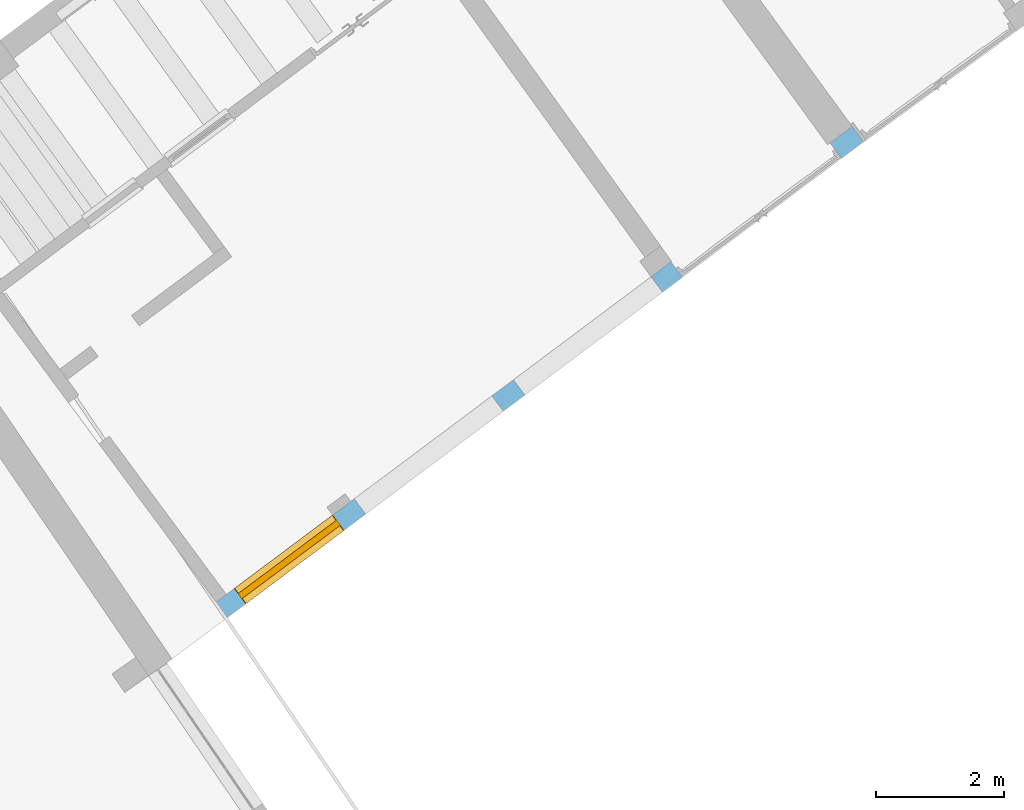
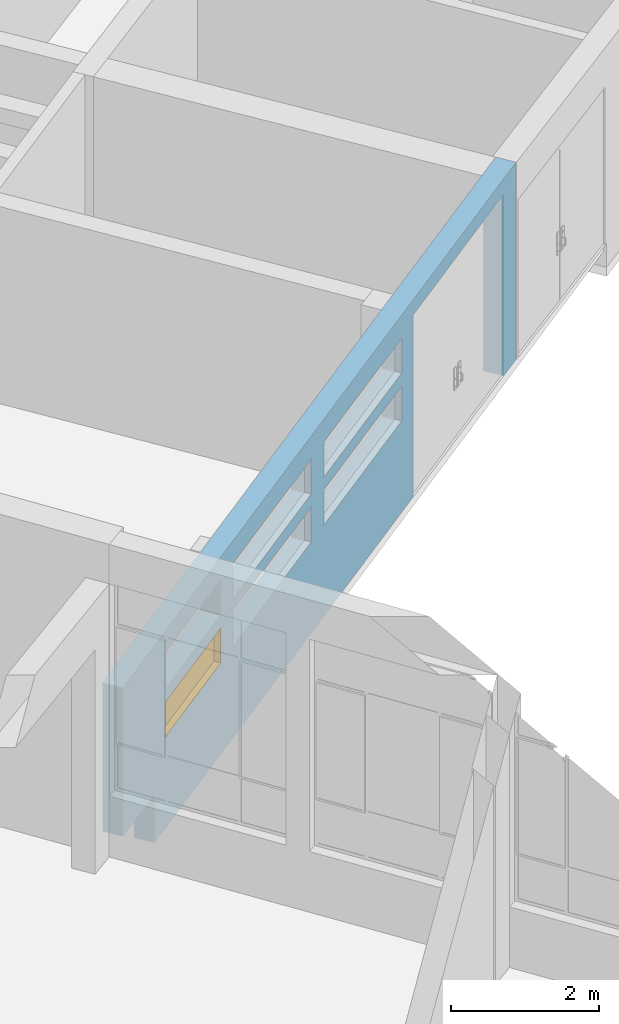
# One storey, part 136 of 157: 1 window, 7 openings, plus 1 element that does not belong to this part.
"""IFC2X3 building model written with IfcOpenShell, lengths in millimetres."""

from ifc_helpers import new_model, entity, si_unit, converted_unit, derived_unit, direction, frame, frame_2d, origin, origin_2d_with_axis, place, context, subcontext, project, spatial, polyline, rectangle, outline, extrude, faceted_brep, source, transform, mapped, material, material_list, layer, layer_set, type_object, type_shapes, element, fill, save


model = new_model("IFC2X3")

# Units and contexts
model_context = context("Model", 3, precision=0.01, world=origin(), true_north=direction((6.123031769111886e-17, 1.0)))
body_context = subcontext(model_context, "Body", "Model", "MODEL_VIEW")
ifc_project = project(units=[si_unit("LENGTHUNIT", "METRE", prefix="MILLI"), si_unit("AREAUNIT", "SQUARE_METRE"), si_unit("VOLUMEUNIT", "CUBIC_METRE"), converted_unit("PLANEANGLEUNIT", "DEGREE", entity("IfcRatioMeasure", 0.017453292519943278), si_unit("PLANEANGLEUNIT", "RADIAN"), dimensions=[0, 0, 0, 0, 0, 0, 0]), si_unit("MASSUNIT", "GRAM", prefix="KILO"), derived_unit("MASSDENSITYUNIT", [(si_unit("MASSUNIT", "GRAM", prefix="KILO"), 1), (si_unit("LENGTHUNIT", "METRE"), -3)]), derived_unit("MOMENTOFINERTIAUNIT", [(si_unit("LENGTHUNIT", "METRE"), 4)]), si_unit("TIMEUNIT", "SECOND"), si_unit("FREQUENCYUNIT", "HERTZ"), si_unit("THERMODYNAMICTEMPERATUREUNIT", "DEGREE_CELSIUS"), derived_unit("THERMALTRANSMITTANCEUNIT", [(si_unit("MASSUNIT", "GRAM", prefix="KILO"), 1), (si_unit("THERMODYNAMICTEMPERATUREUNIT", "KELVIN"), -1), (si_unit("TIMEUNIT", "SECOND"), -3)]), derived_unit("THERMALCONDUCTANCEUNIT", [(si_unit("MASSUNIT", "GRAM", prefix="KILO"), 1), (si_unit("LENGTHUNIT", "METRE"), 1), (si_unit("THERMODYNAMICTEMPERATUREUNIT", "KELVIN"), -1), (si_unit("TIMEUNIT", "SECOND"), -3)]), derived_unit("VOLUMETRICFLOWRATEUNIT", [(si_unit("LENGTHUNIT", "METRE"), 3), (si_unit("TIMEUNIT", "SECOND"), -1)]), derived_unit("MASSFLOWRATEUNIT", [(si_unit("MASSUNIT", "GRAM", prefix="KILO"), 1), (si_unit("TIMEUNIT", "SECOND"), -1)]), derived_unit("ROTATIONALFREQUENCYUNIT", [(si_unit("TIMEUNIT", "SECOND"), -1)]), si_unit("ELECTRICCURRENTUNIT", "AMPERE"), si_unit("ELECTRICVOLTAGEUNIT", "VOLT"), si_unit("POWERUNIT", "WATT"), converted_unit("FORCEUNIT", "KIP", entity("IfcRatioMeasure", 2.088543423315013e-05), si_unit("FORCEUNIT", "NEWTON"), dimensions=[1, 1, -2, 0, 0, 0, 0]), si_unit("ILLUMINANCEUNIT", "LUX"), si_unit("LUMINOUSFLUXUNIT", "LUMEN"), si_unit("LUMINOUSINTENSITYUNIT", "CANDELA"), derived_unit("USERDEFINED", [(si_unit("MASSUNIT", "GRAM", prefix="KILO"), -1), (si_unit("LENGTHUNIT", "METRE"), -2), (si_unit("TIMEUNIT", "SECOND"), 3), (si_unit("LUMINOUSFLUXUNIT", "LUMEN"), 1)]), derived_unit("USERDEFINED", [(si_unit("MASSUNIT", "GRAM", prefix="KILO"), 1), (si_unit("LENGTHUNIT", "METRE"), 3), (si_unit("TIMEUNIT", "SECOND"), -3), (si_unit("ELECTRICCURRENTUNIT", "AMPERE"), -2)]), derived_unit("USERDEFINED", [(si_unit("LENGTHUNIT", "METRE"), 2), (si_unit("TIMEUNIT", "SECOND"), -2)]), derived_unit("SOUNDPOWERUNIT", [(si_unit("MASSUNIT", "GRAM", prefix="KILO"), 1), (si_unit("LENGTHUNIT", "METRE"), 2), (si_unit("TIMEUNIT", "SECOND"), -3)]), derived_unit("SOUNDPRESSUREUNIT", [(si_unit("MASSUNIT", "GRAM", prefix="KILO"), 1), (si_unit("LENGTHUNIT", "METRE"), -1), (si_unit("TIMEUNIT", "SECOND"), -2)]), derived_unit("LINEARVELOCITYUNIT", [(si_unit("LENGTHUNIT", "METRE"), 1), (si_unit("TIMEUNIT", "SECOND"), -1)]), si_unit("PRESSUREUNIT", "PASCAL"), derived_unit("USERDEFINED", [(si_unit("LENGTHUNIT", "METRE"), -2), (si_unit("MASSUNIT", "GRAM", prefix="KILO"), 1), (si_unit("TIMEUNIT", "SECOND"), -2)]), derived_unit("LINEARFORCEUNIT", [(si_unit("MASSUNIT", "GRAM", prefix="KILO"), 1), (si_unit("LENGTHUNIT", "METRE"), 1), (si_unit("TIMEUNIT", "SECOND"), -2), (si_unit("LENGTHUNIT", "METRE"), -1)]), derived_unit("PLANARFORCEUNIT", [(si_unit("MASSUNIT", "GRAM", prefix="KILO"), 1), (si_unit("LENGTHUNIT", "METRE"), 1), (si_unit("TIMEUNIT", "SECOND"), -2), (si_unit("LENGTHUNIT", "METRE"), -2)]), derived_unit("SPECIFICHEATCAPACITYUNIT", [(si_unit("LENGTHUNIT", "METRE"), 2), (si_unit("TIMEUNIT", "SECOND"), -2), (si_unit("THERMODYNAMICTEMPERATUREUNIT", "KELVIN"), -1)]), derived_unit("VAPORPERMEABILITYUNIT", [(si_unit("TIMEUNIT", "SECOND"), 1), (si_unit("LENGTHUNIT", "METRE"), -1)]), derived_unit("DYNAMICVISCOSITYUNIT", [(si_unit("MASSUNIT", "GRAM", prefix="KILO"), 1), (si_unit("LENGTHUNIT", "METRE"), -1), (si_unit("TIMEUNIT", "SECOND"), -1)]), derived_unit("THERMALEXPANSIONCOEFFICIENTUNIT", [(si_unit("THERMODYNAMICTEMPERATUREUNIT", "KELVIN"), -1)])], contexts=[model_context])

# Site, building, storey
site_placement = place(None, frame((0.0, 0.0, 0.0), z_axis=(0.0, 0.0, 1.0), x_axis=(0.8191520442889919, 0.5735764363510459, 0.0)))
site = spatial("IfcSite", under=ifc_project, at=site_placement, Name="Default", CompositionType="ELEMENT")
building_placement = place(site_placement, origin())
building = spatial("IfcBuilding", under=site, at=building_placement, CompositionType="ELEMENT")
storey_placement = place(building_placement, origin())
storey = spatial("IfcBuildingStorey", under=building, at=storey_placement, Name="1.EG +0.00", CompositionType="ELEMENT", Elevation=-4.331468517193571e-12)

# Wall, openings, window
ifc_material_1 = material(Name="Analytical Wall Surface_CJC")
ifc_layer = layer(ifc_material_1, 300.0)
ifc_layer_set = layer_set([ifc_layer], Name="Basic Wall:Wand_Aussen_30")
wall_type = type_object("IfcWallType", Name="Basic Wall:Wand_Aussen_30", PredefinedType="STANDARD", material=ifc_layer_set)
wall_placement = place(storey_placement, frame((-204115.16931109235, 157974.41195440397, -750.0), z_axis=(0.0, 0.0, 1.0), x_axis=(0.9995120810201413, 0.031234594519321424, 0.0)))
wall = element("IfcWall", 1, at=wall_placement, inside=storey, type_object=wall_type, Name="Basic Wall:Wand_Aussen_30", ObjectType="Basic Wall:Wand_Aussen_30", context=body_context, shape_type="Brep", body=[
    faceted_brep([(13462.146148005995, -150.0, 3250.0), (0.0, -150.0, 3250.0), (0.0, -150.0, 800.0), (1079.6115661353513, -150.0, 800.0), (1079.6115661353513, -150.0, 0.0), (9937.425197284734, -150.0, 0.0), (9937.425197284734, -150.0, 3000.0), (13037.425197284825, -150.0, 3000.0), (13037.425197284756, -150.0, 0.0), (13462.146148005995, -150.0, 0.0), (6451.92844655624, -150.0, 1500.0), (3771.928446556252, -150.0, 1500.0), (3771.928446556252, -150.0, 2090.0), (6451.92844655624, -150.0, 2090.0), (9551.928446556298, -150.0, 1500.0), (6871.928446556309, -150.0, 1500.0), (6871.928446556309, -150.0, 2090.0), (9551.928446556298, -150.0, 2090.0), (3351.9284465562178, -150.0, 1500.0), (1431.928446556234, -150.0, 1500.0), (1431.928446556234, -150.0, 2090.0), (3351.9284465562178, -150.0, 2090.0), (3351.9284465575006, -150.0, 2880.0), (3351.9284465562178, -150.0, 2290.0), (1431.928446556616, -150.0, 2290.0), (1431.9284465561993, -150.0, 2880.0), (9551.928446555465, -150.0, 2880.0), (9551.928446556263, -150.0, 2290.0), (6871.928446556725, -150.0, 2290.0), (6871.928446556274, -150.0, 2880.0), (6451.928446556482, -150.0, 2880.0), (6451.928446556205, -150.0, 2290.0), (3771.9284465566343, -150.0, 2290.0), (3771.9284465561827, -150.0, 2880.0), (0.0, 150.0, 3250.0), (1081.098058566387, 150.0, 3250.0), (1281.100513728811, 150.0, 3250.0), (3351.9284465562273, 150.0, 3250.0), (3701.9284465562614, 150.0, 3250.0), (9551.928446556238, 150.0, 3250.0), (9951.967355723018, 150.0, 3250.0), (12990.91558234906, 150.0, 3250.0), (13465.953840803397, 150.0, 3250.0), (13465.953840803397, 150.0, 0.0), (13037.425197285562, 150.0, 0.0), (13037.42519728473, 150.0, 3000.0), (9937.425197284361, 150.0, 3000.0), (9937.425197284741, 150.0, 0.0), (1281.100513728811, 150.0, 0.0), (1081.098058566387, 150.0, 0.0), (1081.098058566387, 150.0, 800.0), (0.0, 150.0, 800.0), (6451.928446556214, 150.0, 1500.0), (6451.928446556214, 150.0, 2090.0), (3771.9284465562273, 150.0, 2090.0), (3771.9284465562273, 150.0, 1500.0), (9551.928446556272, 150.0, 1500.0), (9551.928446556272, 150.0, 2090.0), (6871.928446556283, 150.0, 2090.0), (6871.928446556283, 150.0, 1500.0), (3351.9284465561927, 150.0, 1500.0), (3351.9284465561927, 150.0, 2090.0), (1431.9284465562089, 150.0, 2090.0), (1431.9284465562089, 150.0, 1500.0), (9551.928446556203, 150.0, 2290.0), (9551.928446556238, 150.0, 2880.0), (6871.928446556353, 150.0, 2880.0), (6871.928446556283, 150.0, 2290.0), (6451.928446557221, 150.0, 2290.0), (6451.928446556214, 150.0, 2880.0), (3771.928446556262, 150.0, 2880.0), (3771.9284465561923, 150.0, 2290.0), (3351.9284465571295, 150.0, 2290.0), (3351.9284465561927, 150.0, 2880.0), (1431.9284465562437, 150.0, 2880.0), (1431.9284465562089, 150.0, 2290.0)], [[[0, 1, 2, 3, 4, 5, 6, 7, 8, 9], [10, 11, 12, 13], [14, 15, 16, 17], [18, 19, 20, 21], [22, 23, 24, 25], [26, 27, 28, 29], [30, 31, 32, 33]], [[34, 35, 36, 37, 38, 39, 40, 41, 42, 43, 44, 45, 46, 47, 48, 49, 50, 51], [52, 53, 54, 55], [56, 57, 58, 59], [60, 61, 62, 63], [64, 65, 66, 67], [68, 69, 70, 71], [72, 73, 74, 75]], [[0, 9, 43, 42]], [[4, 49, 48, 47, 5]], [[1, 0, 42, 41, 40, 39, 38, 37, 36, 35, 34]], [[2, 1, 34, 51]], [[3, 2, 51, 50]], [[4, 3, 50, 49]], [[46, 6, 5, 47]], [[6, 46, 45, 7]], [[7, 45, 44, 8]], [[53, 52, 10, 13]], [[54, 53, 13, 12]], [[55, 54, 12, 11]], [[52, 55, 11, 10]], [[57, 56, 14, 17]], [[58, 57, 17, 16]], [[59, 58, 16, 15]], [[56, 59, 15, 14]], [[61, 60, 18, 21]], [[62, 61, 21, 20]], [[63, 62, 20, 19]], [[60, 63, 19, 18]], [[72, 23, 22, 73]], [[73, 22, 25, 74]], [[74, 25, 24, 75]], [[23, 72, 75, 24]], [[64, 27, 26, 65]], [[65, 26, 29, 66]], [[28, 67, 66, 29]], [[27, 64, 67, 28]], [[68, 31, 30, 69]], [[69, 30, 33, 70]], [[32, 71, 70, 33]], [[31, 68, 71, 32]], [[43, 9, 8, 44]]]),
])
opening_1_placement = place(wall_placement, frame((13037.425197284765, 150.0, 0.0)))
element("IfcOpeningElement", 2, at=opening_1_placement, cuts=wall, Name="M_Door-Exterior-Double:300x290:1", ObjectType="Opening", context=body_context, shape_type="SweptSolid", body=[
    extrude(rectangle(XDim=3000.0, YDim=3099.999999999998, at=frame_2d((1500.0, 1549.999999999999), x_axis=(1.0, 0.0))), frame((0.0, 0.0, 0.0), z_axis=(0.0, -1.0, 0.0), x_axis=(0.0, 0.0, 1.0)), (0.0, 0.0, 1.0), 300.0),
])
opening_2_placement = place(wall_placement, frame((6451.928446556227, 150.0, 1500.0)))
element("IfcOpeningElement", 3, at=opening_2_placement, cuts=wall, Name="WINDOW_Glass_Block:WINDOW_Glass_Block_14x3:1", ObjectType="Opening", context=body_context, shape_type="SweptSolid", body=[
    extrude(rectangle(XDim=589.9999999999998, YDim=2679.999999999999, at=frame_2d((294.99999999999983, 1339.9999999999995), x_axis=(1.0, 0.0))), frame((0.0, 0.0, 0.0), z_axis=(0.0, -1.0, 0.0), x_axis=(0.0, 0.0, 1.0)), (0.0, 0.0, 1.0), 300.0),
])
opening_3_placement = place(wall_placement, frame((9551.928446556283, 150.0, 1500.0)))
element("IfcOpeningElement", 4, at=opening_3_placement, cuts=wall, Name="WINDOW_Glass_Block:WINDOW_Glass_Block_14x3:1", ObjectType="Opening", context=body_context, shape_type="SweptSolid", body=[
    extrude(rectangle(XDim=589.9999999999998, YDim=2679.999999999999, at=frame_2d((294.99999999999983, 1339.9999999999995), x_axis=(1.0, 0.0))), frame((0.0, 0.0, 0.0), z_axis=(0.0, -1.0, 0.0), x_axis=(0.0, 0.0, 1.0)), (0.0, 0.0, 1.0), 300.0),
])
opening_4_placement = place(wall_placement, frame((3351.92844655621, 150.0, 1500.0)))
opening_4 = element("IfcOpeningElement", 5, at=opening_4_placement, cuts=wall, Name="WINDOW_Glass_Block:WINDOW_Glass_Block_10x3:1", ObjectType="Opening", context=body_context, shape_type="SweptSolid", body=[
    extrude(rectangle(XDim=589.9999999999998, YDim=1920.0, at=frame_2d((294.99999999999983, 960.0), x_axis=(1.0, 0.0))), frame((0.0, 0.0, 0.0), z_axis=(0.0, -1.0, 0.0), x_axis=(0.0, 0.0, 1.0)), (0.0, 0.0, 1.0), 300.0),
])
opening_5_placement = place(wall_placement, frame((6451.928446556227, 150.0, 2290.0)))
element("IfcOpeningElement", 6, at=opening_5_placement, cuts=wall, Name="WINDOW_Glass_Block:WINDOW_Glass_Block_14x3:1", ObjectType="Opening", context=body_context, shape_type="SweptSolid", body=[
    extrude(rectangle(XDim=589.9999999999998, YDim=2679.999999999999, at=frame_2d((294.99999999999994, 1339.9999999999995), x_axis=(1.0, 0.0))), frame((0.0, 0.0, 0.0), z_axis=(0.0, -1.0, 0.0), x_axis=(0.0, 0.0, 1.0)), (0.0, 0.0, 1.0), 300.0),
])
opening_6_placement = place(wall_placement, frame((9551.928446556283, 150.0, 2290.0)))
element("IfcOpeningElement", 7, at=opening_6_placement, cuts=wall, Name="WINDOW_Glass_Block:WINDOW_Glass_Block_14x3:1", ObjectType="Opening", context=body_context, shape_type="SweptSolid", body=[
    extrude(rectangle(XDim=589.9999999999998, YDim=2679.999999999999, at=frame_2d((294.99999999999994, 1339.9999999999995), x_axis=(1.0, 0.0))), frame((0.0, 0.0, 0.0), z_axis=(0.0, -1.0, 0.0), x_axis=(0.0, 0.0, 1.0)), (0.0, 0.0, 1.0), 300.0),
])
opening_7_placement = place(wall_placement, frame((3351.92844655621, 150.0, 2290.0)))
element("IfcOpeningElement", 8, at=opening_7_placement, cuts=wall, Name="WINDOW_Glass_Block:WINDOW_Glass_Block_10x3:1", ObjectType="Opening", context=body_context, shape_type="SweptSolid", body=[
    extrude(rectangle(XDim=589.9999999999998, YDim=1920.0, at=frame_2d((294.99999999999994, 960.0), x_axis=(1.0, 0.0))), frame((0.0, 0.0, 0.0), z_axis=(0.0, -1.0, 0.0), x_axis=(0.0, 0.0, 1.0)), (0.0, 0.0, 1.0), 300.0),
])
ifc_material_2 = material(Name="Glass")
ifc_material_3 = material(Name="Wood")
ifc_material_list = material_list([ifc_material_2, ifc_material_3])
window_style = type_object("IfcWindowStyle", Name="WINDOW_Glass_Block:WINDOW_Glass_Block_10x3", ConstructionType="NOTDEFINED", OperationType="NOTDEFINED", ParameterTakesPrecedence=False, Sizeable=False, material=ifc_material_list)
shared_shape = source(origin(), body_context, "Body", "SweptSolid", [
    extrude(rectangle(XDim=190.0, YDim=100.0, at=frame_2d((-6.394884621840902e-14, 0.0), x_axis=(1.0, 0.0))), frame((1625.0, 150.0, 200.0), z_axis=(0.0, 0.0, 1.0), x_axis=(-1.0, 0.0, 0.0)), (0.0, 0.0, 1.0), 189.99999999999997),
    extrude(rectangle(XDim=189.99999999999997, YDim=100.0, at=origin_2d_with_axis()), frame((1435.0, 150.0, 200.0), z_axis=(0.0, 0.0, 1.0), x_axis=(-1.0, 0.0, 0.0)), (0.0, 0.0, 1.0), 189.99999999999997),
    extrude(rectangle(XDim=189.99999999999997, YDim=100.0, at=origin_2d_with_axis()), frame((1245.0, 150.0, 200.0), z_axis=(0.0, 0.0, 1.0), x_axis=(-1.0, 0.0, 0.0)), (0.0, 0.0, 1.0), 189.99999999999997),
    extrude(rectangle(XDim=190.00000000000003, YDim=100.0, at=origin_2d_with_axis()), frame((1055.0, 150.0, 200.0), z_axis=(0.0, 0.0, 1.0), x_axis=(-1.0, 0.0, 0.0)), (0.0, 0.0, 1.0), 189.99999999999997),
    extrude(rectangle(XDim=190.0, YDim=100.0, at=frame_2d((-2.1316282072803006e-14, 0.0), x_axis=(1.0, 0.0))), frame((865.0, 150.0, 200.0), z_axis=(0.0, 0.0, 1.0), x_axis=(-1.0, 0.0, 0.0)), (0.0, 0.0, 1.0), 189.99999999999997),
    extrude(rectangle(XDim=190.0, YDim=100.0, at=frame_2d((-2.1316282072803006e-14, 0.0), x_axis=(1.0, 0.0))), frame((675.0, 150.0, 200.0), z_axis=(0.0, 0.0, 1.0), x_axis=(-1.0, 0.0, 0.0)), (0.0, 0.0, 1.0), 189.99999999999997),
    extrude(rectangle(XDim=190.00000000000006, YDim=100.0, at=frame_2d((-3.552713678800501e-14, 0.0), x_axis=(1.0, 0.0))), frame((485.0, 150.0, 200.0), z_axis=(0.0, 0.0, 1.0), x_axis=(-1.0, 0.0, 0.0)), (0.0, 0.0, 1.0), 189.99999999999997),
    extrude(rectangle(XDim=190.0, YDim=100.0, at=frame_2d((6.394884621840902e-14, 0.0), x_axis=(1.0, 0.0))), frame((295.0, 150.0, 200.0), z_axis=(0.0, 0.0, 1.0), x_axis=(-1.0, 0.0, 0.0)), (0.0, 0.0, 1.0), 189.99999999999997),
    extrude(rectangle(XDim=190.0, YDim=100.0, at=frame_2d((-6.394884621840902e-14, 0.0), x_axis=(1.0, 0.0))), frame((1815.0, 150.0, 200.0), z_axis=(0.0, 0.0, 1.0), x_axis=(-1.0, 0.0, 0.0)), (0.0, 0.0, 1.0), 189.99999999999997),
    extrude(rectangle(XDim=190.0, YDim=100.0, at=frame_2d((-6.394884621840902e-14, 0.0), x_axis=(1.0, 0.0))), frame((105.0, 150.0, 200.0), z_axis=(0.0, 0.0, 1.0), x_axis=(-1.0, 0.0, 0.0)), (0.0, 0.0, 1.0), 189.99999999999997),
    extrude(rectangle(XDim=190.0, YDim=100.0, at=frame_2d((-6.394884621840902e-14, 0.0), x_axis=(1.0, 0.0))), frame((1625.0, 150.0, 390.0), z_axis=(0.0, 0.0, 1.0), x_axis=(-1.0, 0.0, 0.0)), (0.0, 0.0, 1.0), 190.0000000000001),
    extrude(rectangle(XDim=189.99999999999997, YDim=100.0, at=origin_2d_with_axis()), frame((1435.0, 150.0, 390.0), z_axis=(0.0, 0.0, 1.0), x_axis=(-1.0, 0.0, 0.0)), (0.0, 0.0, 1.0), 190.0000000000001),
    extrude(rectangle(XDim=189.99999999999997, YDim=100.0, at=origin_2d_with_axis()), frame((1245.0, 150.0, 390.0), z_axis=(0.0, 0.0, 1.0), x_axis=(-1.0, 0.0, 0.0)), (0.0, 0.0, 1.0), 190.0000000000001),
    extrude(rectangle(XDim=190.00000000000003, YDim=100.0, at=origin_2d_with_axis()), frame((1055.0, 150.0, 390.0), z_axis=(0.0, 0.0, 1.0), x_axis=(-1.0, 0.0, 0.0)), (0.0, 0.0, 1.0), 190.0000000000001),
    extrude(rectangle(XDim=190.0, YDim=100.0, at=frame_2d((-2.1316282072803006e-14, 0.0), x_axis=(1.0, 0.0))), frame((865.0, 150.0, 390.0), z_axis=(0.0, 0.0, 1.0), x_axis=(-1.0, 0.0, 0.0)), (0.0, 0.0, 1.0), 190.0000000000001),
    extrude(rectangle(XDim=190.0, YDim=100.0, at=frame_2d((-2.1316282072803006e-14, 0.0), x_axis=(1.0, 0.0))), frame((675.0, 150.0, 390.0), z_axis=(0.0, 0.0, 1.0), x_axis=(-1.0, 0.0, 0.0)), (0.0, 0.0, 1.0), 190.0000000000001),
    extrude(rectangle(XDim=190.00000000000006, YDim=100.0, at=frame_2d((-3.552713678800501e-14, 0.0), x_axis=(1.0, 0.0))), frame((485.0, 150.0, 390.0), z_axis=(0.0, 0.0, 1.0), x_axis=(-1.0, 0.0, 0.0)), (0.0, 0.0, 1.0), 190.0000000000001),
    extrude(rectangle(XDim=190.0, YDim=100.0, at=frame_2d((6.394884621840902e-14, 0.0), x_axis=(1.0, 0.0))), frame((295.0, 150.0, 390.0), z_axis=(0.0, 0.0, 1.0), x_axis=(-1.0, 0.0, 0.0)), (0.0, 0.0, 1.0), 190.0000000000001),
    extrude(rectangle(XDim=190.0, YDim=100.0, at=frame_2d((-6.394884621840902e-14, 0.0), x_axis=(1.0, 0.0))), frame((1815.0, 150.0, 390.0), z_axis=(0.0, 0.0, 1.0), x_axis=(-1.0, 0.0, 0.0)), (0.0, 0.0, 1.0), 190.0000000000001),
    extrude(rectangle(XDim=190.0, YDim=100.0, at=frame_2d((-6.394884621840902e-14, 0.0), x_axis=(1.0, 0.0))), frame((105.0, 150.0, 390.0), z_axis=(0.0, 0.0, 1.0), x_axis=(-1.0, 0.0, 0.0)), (0.0, 0.0, 1.0), 190.0000000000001),
    extrude(rectangle(XDim=190.0, YDim=100.0, at=frame_2d((-6.394884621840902e-14, 0.0), x_axis=(1.0, 0.0))), frame((1625.0, 150.0, 10.0), z_axis=(0.0, 0.0, 1.0), x_axis=(-1.0, 0.0, 0.0)), (0.0, 0.0, 1.0), 189.99999999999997),
    extrude(rectangle(XDim=189.99999999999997, YDim=100.0, at=origin_2d_with_axis()), frame((1435.0, 150.0, 10.0), z_axis=(0.0, 0.0, 1.0), x_axis=(-1.0, 0.0, 0.0)), (0.0, 0.0, 1.0), 189.99999999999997),
    extrude(rectangle(XDim=189.99999999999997, YDim=100.0, at=origin_2d_with_axis()), frame((1245.0, 150.0, 10.0), z_axis=(0.0, 0.0, 1.0), x_axis=(-1.0, 0.0, 0.0)), (0.0, 0.0, 1.0), 189.99999999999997),
    extrude(rectangle(XDim=190.00000000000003, YDim=100.0, at=origin_2d_with_axis()), frame((1055.0, 150.0, 10.0), z_axis=(0.0, 0.0, 1.0), x_axis=(-1.0, 0.0, 0.0)), (0.0, 0.0, 1.0), 189.99999999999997),
    extrude(rectangle(XDim=190.0, YDim=100.0, at=frame_2d((-2.1316282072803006e-14, 0.0), x_axis=(1.0, 0.0))), frame((865.0, 150.0, 10.0), z_axis=(0.0, 0.0, 1.0), x_axis=(-1.0, 0.0, 0.0)), (0.0, 0.0, 1.0), 189.99999999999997),
    extrude(rectangle(XDim=190.0, YDim=100.0, at=frame_2d((-2.1316282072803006e-14, 0.0), x_axis=(1.0, 0.0))), frame((675.0, 150.0, 10.0), z_axis=(0.0, 0.0, 1.0), x_axis=(-1.0, 0.0, 0.0)), (0.0, 0.0, 1.0), 189.99999999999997),
    extrude(rectangle(XDim=190.00000000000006, YDim=100.0, at=frame_2d((-3.552713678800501e-14, 0.0), x_axis=(1.0, 0.0))), frame((485.0, 150.0, 10.0), z_axis=(0.0, 0.0, 1.0), x_axis=(-1.0, 0.0, 0.0)), (0.0, 0.0, 1.0), 189.99999999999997),
    extrude(rectangle(XDim=190.0, YDim=100.0, at=frame_2d((6.394884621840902e-14, 0.0), x_axis=(1.0, 0.0))), frame((295.0, 150.0, 10.0), z_axis=(0.0, 0.0, 1.0), x_axis=(-1.0, 0.0, 0.0)), (0.0, 0.0, 1.0), 189.99999999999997),
    extrude(rectangle(XDim=190.0, YDim=100.0, at=frame_2d((-6.394884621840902e-14, 0.0), x_axis=(1.0, 0.0))), frame((1815.0, 150.0, 10.0), z_axis=(0.0, 0.0, 1.0), x_axis=(-1.0, 0.0, 0.0)), (0.0, 0.0, 1.0), 189.99999999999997),
    extrude(rectangle(XDim=190.0, YDim=100.0, at=frame_2d((-6.394884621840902e-14, 0.0), x_axis=(1.0, 0.0))), frame((105.0, 150.0, 10.0), z_axis=(0.0, 0.0, 1.0), x_axis=(-1.0, 0.0, 0.0)), (0.0, 0.0, 1.0), 189.99999999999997),
    extrude(outline(polyline([(-295.0, -960.0), (295.0, -960.0), (295.0, 960.0), (-295.0, 960.0), (-295.0, -960.0)]), holes=[polyline([(-285.0, -950.0), (-285.0, 950.0), (285.0, 950.0), (285.0, -950.0), (-285.0, -950.0)])]), frame((960.0, 0.0, 295.0), z_axis=(0.0, 1.0, 0.0), x_axis=(0.0, 0.0, -1.0)), (0.0, 0.0, 1.0), 300.0),
])
type_shapes(window_style, [shared_shape])
window_placement = place(opening_4_placement, frame((0.0, 0.0, 0.0), z_axis=(0.0, 0.0, 1.0), x_axis=(-1.0, 0.0, 0.0)))
window = element("IfcWindow", 9, at=window_placement, inside=storey, type_object=window_style, material=ifc_material_list, Name="WINDOW_Glass_Block:WINDOW_Glass_Block_10x3", ObjectType="WINDOW_Glass_Block:WINDOW_Glass_Block_10x3", OverallHeight=589.9999999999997, OverallWidth=1919.999999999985, context=body_context, shape_type="MappedRepresentation", body=[
    mapped(shared_shape, transform((0.0, 0.0, 0.0), scale=1.0)),
])
fill(opening_4, window)

save(model, "model.ifc")
